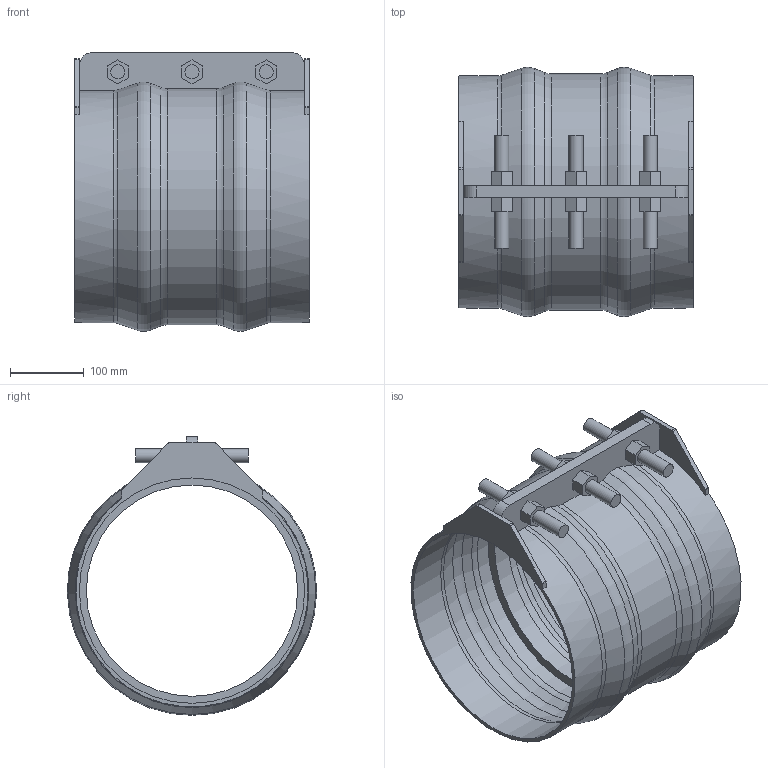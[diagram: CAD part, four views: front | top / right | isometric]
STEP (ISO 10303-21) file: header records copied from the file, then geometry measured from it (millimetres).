
FILE_DESCRIPTION(/* description */ ('VIC RESTRAINED COUPLING STYLE 233 (FLEX) (BRD)','CAx-IF Rec.Pracs.---Representation and Presentation of Product Manufacturing Information (PMI)---4.0---2014-10-13'),/* implementation_level */ '2;1');
FILE_NAME(/* name */ 'C:\Users\Vjadhav\Desktop\CAD for Inventor\Test for STEP\Vivek\Adsk_Inventor_Bolted Sleeve_iParts\STEP\Victaulic_VBSP_Coupling Flexible Restrained_Style 233 (BRD)\Victaulic_VBSP_Coupling Flexible Restrained_Style 233 (BRD)_300psi_12 (300).stp',/* time_stamp */ '2020-09-24T12:28:47+06:00',/* author */ ('Vjadhav'),/* organization */ ('Victaulic'),/* preprocessor_version */ 'ST-DEVELOPER v17.2',/* originating_system */ 'Autodesk Inventor 2019',/* authorisation */ '');
FILE_SCHEMA (('AP242_MANAGED_MODEL_BASED_3D_ENGINEERING_MIM_LF { 1 0 10303 442 1 1 4 }'));
Length unit declared in the file: inch
Products named in the file (1): Style_233_Type_2_300psi-12.0
Bounding box: 317.5 x 337.21 x 376.95 mm (x, y, z)
Volume: 2217596.1 mm3; surface area: 757232.1 mm2
Topology: 1 solids, 1 shells, 111 faces, 301 edges, 206 vertices
Faces by surface type: plane 67, cylinder 24, torus 12, cone 8
Full cylindrical faces by diameter (mm): 19.05 x6, 285.75 x1, 304.8 x2, 311.15 x2
Entity records: 3858 total; most frequent: CARTESIAN_POINT 732, DIRECTION 633, ORIENTED_EDGE 602, EDGE_CURVE 301, AXIS2_PLACEMENT_3D 227, VERTEX_POINT 206, LINE 179, VECTOR 179
